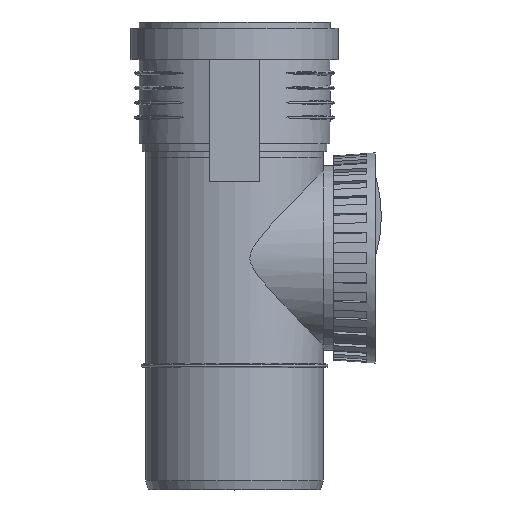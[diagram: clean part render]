
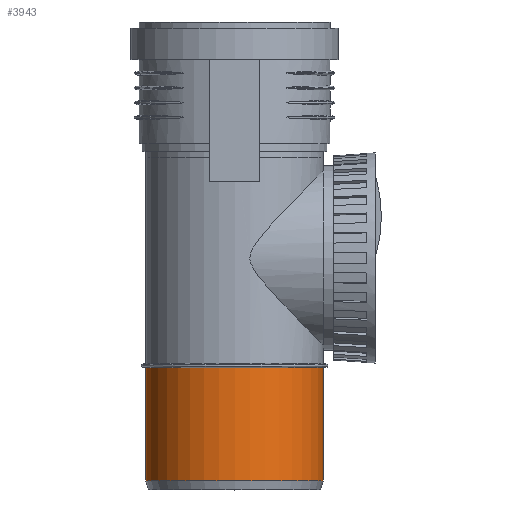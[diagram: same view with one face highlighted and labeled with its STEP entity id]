
A CAD part, top view. The second image highlights one B-rep face of the part: STEP entity #3943.
In plain terms, the highlighted cylindrical face has radius 45.1 mm (diameter 90.2 mm), a full revolution.
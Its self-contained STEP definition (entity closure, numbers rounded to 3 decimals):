
#145=FACE_BOUND($,#1174,.T.);
#957=FACE_OUTER_BOUND($,#1173,.T.);
#1173=EDGE_LOOP($,(#2594));
#1174=EDGE_LOOP($,(#2595));
#1481=CIRCLE($,#4177,45.1);
#1482=CIRCLE($,#4179,45.1);
#1620=VERTEX_POINT($,#5758);
#1621=VERTEX_POINT($,#5761);
#2014=EDGE_CURVE($,#1620,#1620,#1481,.T.);
#2015=EDGE_CURVE($,#1621,#1621,#1482,.T.);
#2594=ORIENTED_EDGE($,*,*,#2015,.F.);
#2595=ORIENTED_EDGE($,*,*,#2014,.T.);
#3696=CYLINDRICAL_SURFACE($,#4178,45.1);
#3943=ADVANCED_FACE($,(#957,#145),#3696,.T.);
#4177=AXIS2_PLACEMENT_3D($,#5759,#4561,#4562);
#4178=AXIS2_PLACEMENT_3D($,#5760,#4563,#4564);
#4179=AXIS2_PLACEMENT_3D($,#5762,#4565,#4566);
#4561=DIRECTION('center_axis',(0.,1.,0.));
#4562=DIRECTION('ref_axis',(-1.,0.,0.));
#4563=DIRECTION('center_axis',(0.,1.,0.));
#4564=DIRECTION('ref_axis',(-1.,0.,0.));
#4565=DIRECTION('center_axis',(0.,1.,0.));
#4566=DIRECTION('ref_axis',(-1.,0.,0.));
#5758=CARTESIAN_POINT('',(-45.1,4.5,0.));
#5759=CARTESIAN_POINT('Origin',(0.,4.5,
0.));
#5760=CARTESIAN_POINT('Origin',(0.,33.25,0.));
#5761=CARTESIAN_POINT('',(-45.1,62.,0.));
#5762=CARTESIAN_POINT('Origin',(0.,62.,0.));
